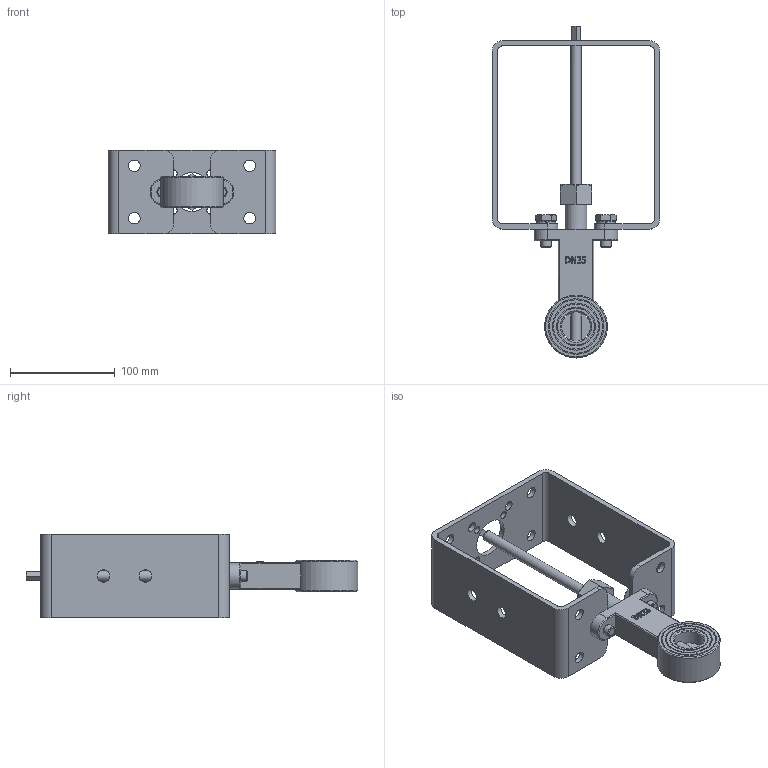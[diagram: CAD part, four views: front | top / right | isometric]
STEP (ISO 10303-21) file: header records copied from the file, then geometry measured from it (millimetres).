
FILE_DESCRIPTION(/* description */ (''),/* implementation_level */ '2;1');
FILE_NAME(/* name */ 'C:\Users\miv\Desktop\Typ 5k DN25\Typ 5k DN25.stp',/* time_stamp */ '2018-04-20T08:16:38+02:00',/* author */ ('Technik-3D'),/* organization */ (''),/* preprocessor_version */ 'ST-DEVELOPER v16.1',/* originating_system */ 'Autodesk Inventor 2016',/* authorisation */ '');
FILE_SCHEMA (('AUTOMOTIVE_DESIGN { 1 0 10303 214 3 1 1 }'));
Length unit declared in the file: centimetre
Products named in the file (1): Typ 5k DN25
Bounding box: 160 x 317 x 80 mm (x, y, z)
Volume: 402017.2 mm3; surface area: 148147 mm2
Topology: 1 solids, 2 shells, 286 faces, 712 edges, 458 vertices
Faces by surface type: plane 139, cylinder 82, bspline 32, cone 31, torus 2
Full cylindrical faces by diameter (mm): 7 x4, 9 x4, 9.188 x2, 10 x6, 10.3 x1, 10.5 x2, 11 x11, 12.1 x4, 12.7 x1, 13 x1, 15.4 x2, 16 x1, 21 x1, 27.7 x1, 28 x1, 35 x2, 37 x3, 43 x2, 45 x2, 51 x2, 53 x2, 60 x1
Entity records: 8470 total; most frequent: CARTESIAN_POINT 1898, DIRECTION 1233, ORIENTED_EDGE 1218, EDGE_CURVE 607, AXIS2_PLACEMENT_3D 471, EDGE_LOOP 441, VERTEX_POINT 426, LINE 291
